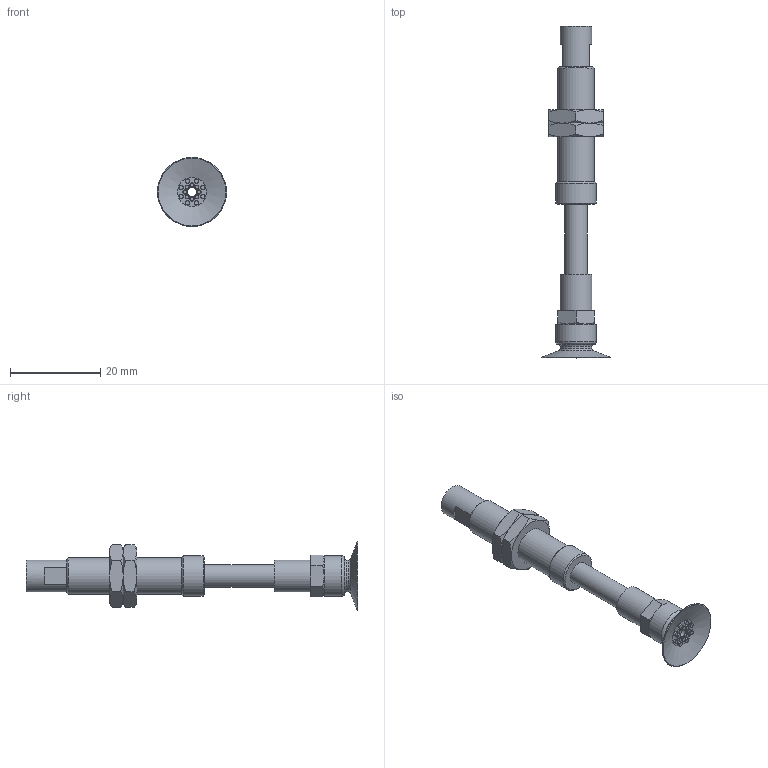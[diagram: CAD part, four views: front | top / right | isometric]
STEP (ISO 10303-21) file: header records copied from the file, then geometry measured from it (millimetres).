
FILE_DESCRIPTION(('STEP AP203'),'1');
FILE_NAME('-SPE.stp','2025-04-01T05:22:50',(' '),(' '),'Spatial InterOp 3D',' ',' ');
FILE_SCHEMA(('CONFIG_CONTROL_DESIGN'));
Length unit declared in the file: millimetre
Products named in the file (9): BNABPATS-15A-15-※-SPE; NUT; BODY; STOPPER; ZIG; TN-PS-10-M5; Setting screws-TN-PS-10-M5; BPAG-15A-※
Assembly tree (8 placements, depth 3):
  BNABPATS-15A-15-※-SPE
    NUT
    NUT
    BODY
    STOPPER
    ZIG
    TN-PS-10-M5
      Setting screws-TN-PS-10-M5
    BPAG-15A-※
Bounding box: 15.3 x 73.5 x 15.3 mm (x, y, z)
Volume: 3119.9 mm3; surface area: 4876.8 mm2
Topology: 7 solids, 7 shells, 175 faces, 345 edges, 213 vertices
Faces by surface type: plane 77, cone 47, cylinder 43, torus 8
Full cylindrical faces by diameter (mm): 0.9 x16, 2 x3, 3.4 x1, 3.5 x1, 3.9 x1, 4 x5, 4.2 x2, 5 x3, 5.2 x1, 6 x2, 7 x3, 7.25 x2, 8 x1, 9 x2
Entity records: 4552 total; most frequent: CARTESIAN_POINT 829, DIRECTION 718, ORIENTED_EDGE 524, AXIS2_PLACEMENT_3D 331, EDGE_LOOP 286, EDGE_CURVE 262, FACE_OUTER_BOUND 226, VERTEX_POINT 198
